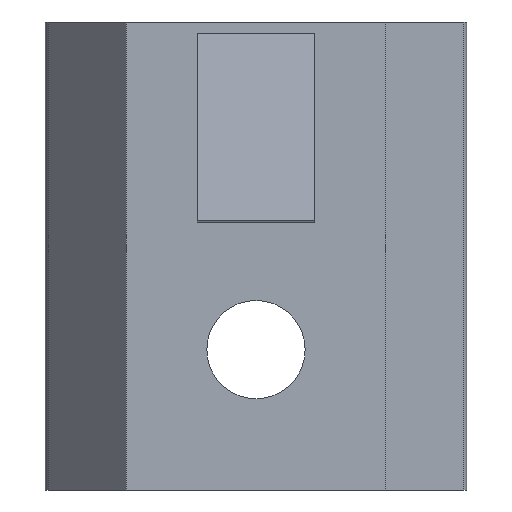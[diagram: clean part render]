
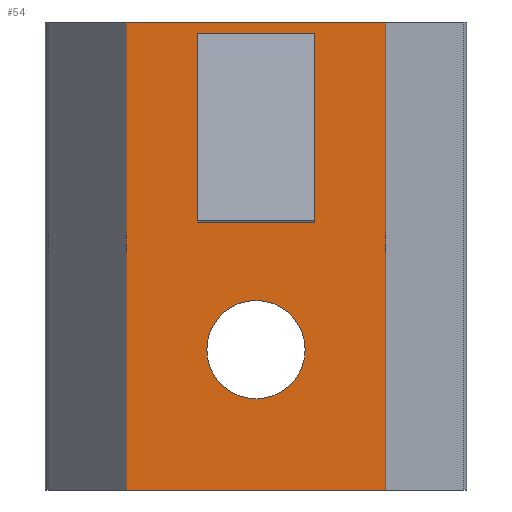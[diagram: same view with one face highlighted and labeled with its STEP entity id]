
A CAD part, front view. The second image highlights one B-rep face of the part: STEP entity #54.
In plain terms, the highlighted planar face has unit normal (0, -1, 0).
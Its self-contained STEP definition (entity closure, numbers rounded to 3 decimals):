
#6 = ORIENTED_EDGE ( 'NONE', *, *, #527, .F. ) ;
#15 = DIRECTION ( 'NONE',  ( 1., 0., 0. ) ) ;
#27 = VECTOR ( 'NONE', #86, 1000. ) ;
#28 = DIRECTION ( 'NONE',  ( 0., 0., -1. ) ) ;
#31 = DIRECTION ( 'NONE',  ( -1., 0., 0. ) ) ;
#32 = ORIENTED_EDGE ( 'NONE', *, *, #514, .F. ) ;
#39 = ORIENTED_EDGE ( 'NONE', *, *, #205, .F. ) ;
#49 = LINE ( 'NONE', #129, #306 ) ;
#54 = ADVANCED_FACE ( 'NONE', ( #540, #104, #95 ), #389, .F. ) ;
#66 = DIRECTION ( 'NONE',  ( 0., 0., 1. ) ) ;
#67 = CARTESIAN_POINT ( 'NONE',  ( -5.544, -8.15, 20. ) ) ;
#69 = DIRECTION ( 'NONE',  ( 0., 0., 1. ) ) ;
#77 = DIRECTION ( 'NONE',  ( 0., -1., 0. ) ) ;
#86 = DIRECTION ( 'NONE',  ( 0., 0., -1. ) ) ;
#95 = FACE_BOUND ( 'NONE', #214, .T. ) ;
#104 = FACE_BOUND ( 'NONE', #505, .T. ) ;
#118 = CARTESIAN_POINT ( 'NONE',  ( -5.544, -8.15, 20. ) ) ;
#120 = LINE ( 'NONE', #407, #560 ) ;
#121 = ORIENTED_EDGE ( 'NONE', *, *, #173, .T. ) ;
#129 = CARTESIAN_POINT ( 'NONE',  ( -2.5, -8.15, 17.196 ) ) ;
#130 = CARTESIAN_POINT ( 'NONE',  ( -5.544, -8.15, 20. ) ) ;
#132 = AXIS2_PLACEMENT_3D ( 'NONE', #285, #552, #28 ) ;
#140 = CARTESIAN_POINT ( 'NONE',  ( 0.001, -8.15, 6. ) ) ;
#141 = LINE ( 'NONE', #198, #249 ) ;
#161 = EDGE_CURVE ( 'NONE', #175, #500, #368, .T. ) ;
#163 = VERTEX_POINT ( 'NONE', #649 ) ;
#173 = EDGE_CURVE ( 'NONE', #429, #163, #456, .T. ) ;
#174 = VECTOR ( 'NONE', #342, 1000. ) ;
#175 = VERTEX_POINT ( 'NONE', #179 ) ;
#179 = CARTESIAN_POINT ( 'NONE',  ( 2.5, -8.15, 17.196 ) ) ;
#180 = LINE ( 'NONE', #453, #27 ) ;
#181 = DIRECTION ( 'NONE',  ( 0., 0., -1. ) ) ;
#187 = LINE ( 'NONE', #501, #622 ) ;
#189 = EDGE_CURVE ( 'NONE', #643, #209, #49, .T. ) ;
#193 = ORIENTED_EDGE ( 'NONE', *, *, #488, .F. ) ;
#198 = CARTESIAN_POINT ( 'NONE',  ( -5.544, -8.15, 0. ) ) ;
#203 = CIRCLE ( 'NONE', #673, 2.1 ) ;
#204 = VECTOR ( 'NONE', #66, 1000. ) ;
#205 = EDGE_CURVE ( 'NONE', #429, #678, #472, .T. ) ;
#209 = VERTEX_POINT ( 'NONE', #441 ) ;
#214 = EDGE_LOOP ( 'NONE', ( #600, #313, #639, #6 ) ) ;
#223 = DIRECTION ( 'NONE',  ( 0., 1., 0. ) ) ;
#242 = DIRECTION ( 'NONE',  ( 1., 0., 0. ) ) ;
#243 = VERTEX_POINT ( 'NONE', #548 ) ;
#249 = VECTOR ( 'NONE', #242, 1000. ) ;
#258 = EDGE_CURVE ( 'NONE', #175, #643, #187, .T. ) ;
#275 = AXIS2_PLACEMENT_3D ( 'NONE', #118, #223, #430 ) ;
#281 = EDGE_LOOP ( 'NONE', ( #565, #358, #39, #121 ) ) ;
#285 = CARTESIAN_POINT ( 'NONE',  ( 0.001, -8.15, 6. ) ) ;
#306 = VECTOR ( 'NONE', #69, 1000. ) ;
#313 = ORIENTED_EDGE ( 'NONE', *, *, #258, .T. ) ;
#324 = EDGE_CURVE ( 'NONE', #678, #538, #180, .T. ) ;
#325 = VERTEX_POINT ( 'NONE', #606 ) ;
#342 = DIRECTION ( 'NONE',  ( 0., 0., -1. ) ) ;
#349 = CARTESIAN_POINT ( 'NONE',  ( 5.546, -8.15, 0. ) ) ;
#358 = ORIENTED_EDGE ( 'NONE', *, *, #324, .F. ) ;
#368 = LINE ( 'NONE', #391, #204 ) ;
#389 = PLANE ( 'NONE',  #275 ) ;
#391 = CARTESIAN_POINT ( 'NONE',  ( 2.5, -8.15, 17.196 ) ) ;
#407 = CARTESIAN_POINT ( 'NONE',  ( 2.5, -8.15, 19.5 ) ) ;
#416 = CARTESIAN_POINT ( 'NONE',  ( 5.546, -8.15, 20. ) ) ;
#429 = VERTEX_POINT ( 'NONE', #557 ) ;
#430 = DIRECTION ( 'NONE',  ( 0., 0., 1. ) ) ;
#441 = CARTESIAN_POINT ( 'NONE',  ( -2.5, -8.15, 19.5 ) ) ;
#453 = CARTESIAN_POINT ( 'NONE',  ( 5.546, -8.15, 20. ) ) ;
#456 = LINE ( 'NONE', #130, #174 ) ;
#472 = LINE ( 'NONE', #67, #517 ) ;
#488 = EDGE_CURVE ( 'NONE', #243, #325, #569, .T. ) ;
#494 = DIRECTION ( 'NONE',  ( -1., 0., 0. ) ) ;
#500 = VERTEX_POINT ( 'NONE', #509 ) ;
#501 = CARTESIAN_POINT ( 'NONE',  ( 2.5, -8.15, 17.196 ) ) ;
#505 = EDGE_LOOP ( 'NONE', ( #32, #193 ) ) ;
#509 = CARTESIAN_POINT ( 'NONE',  ( 2.5, -8.15, 19.5 ) ) ;
#514 = EDGE_CURVE ( 'NONE', #325, #243, #203, .T. ) ;
#517 = VECTOR ( 'NONE', #15, 1000. ) ;
#527 = EDGE_CURVE ( 'NONE', #500, #209, #120, .T. ) ;
#538 = VERTEX_POINT ( 'NONE', #349 ) ;
#540 = FACE_OUTER_BOUND ( 'NONE', #281, .T. ) ;
#548 = CARTESIAN_POINT ( 'NONE',  ( 0.001, -8.15, 8.1 ) ) ;
#552 = DIRECTION ( 'NONE',  ( 0., -1., 0. ) ) ;
#557 = CARTESIAN_POINT ( 'NONE',  ( -5.544, -8.15, 20. ) ) ;
#560 = VECTOR ( 'NONE', #31, 1000. ) ;
#565 = ORIENTED_EDGE ( 'NONE', *, *, #595, .T. ) ;
#569 = CIRCLE ( 'NONE', #132, 2.1 ) ;
#595 = EDGE_CURVE ( 'NONE', #163, #538, #141, .T. ) ;
#600 = ORIENTED_EDGE ( 'NONE', *, *, #161, .F. ) ;
#606 = CARTESIAN_POINT ( 'NONE',  ( 0.001, -8.15, 3.9 ) ) ;
#622 = VECTOR ( 'NONE', #494, 1000. ) ;
#624 = CARTESIAN_POINT ( 'NONE',  ( -2.5, -8.15, 17.196 ) ) ;
#639 = ORIENTED_EDGE ( 'NONE', *, *, #189, .T. ) ;
#643 = VERTEX_POINT ( 'NONE', #624 ) ;
#649 = CARTESIAN_POINT ( 'NONE',  ( -5.544, -8.15, 0. ) ) ;
#673 = AXIS2_PLACEMENT_3D ( 'NONE', #140, #77, #181 ) ;
#678 = VERTEX_POINT ( 'NONE', #416 ) ;
